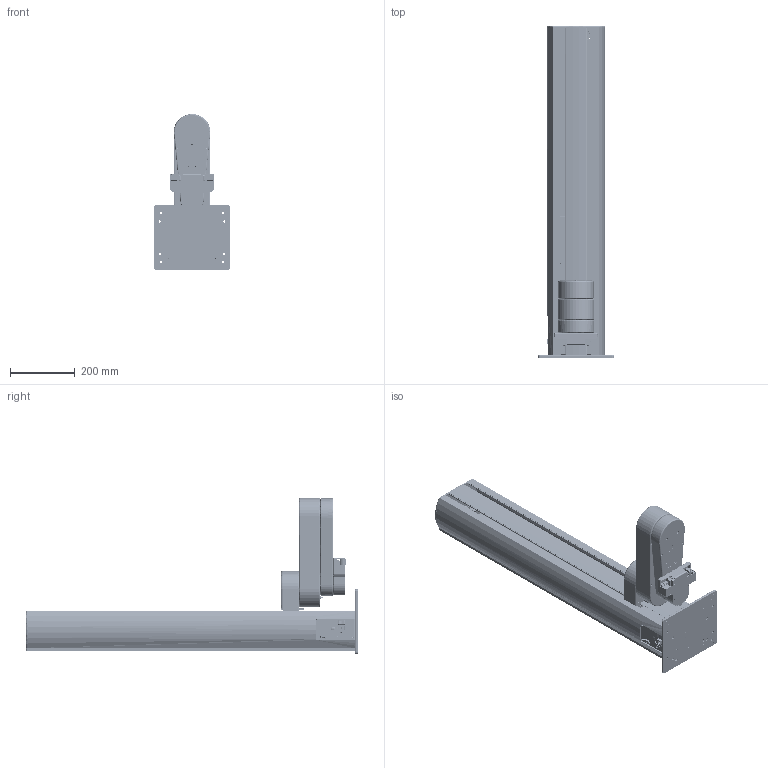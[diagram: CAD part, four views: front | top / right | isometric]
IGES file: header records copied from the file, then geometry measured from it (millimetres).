
Start section: SolidWorks IGES file using analytic representation for surfaces
Global section: file name: C:\Users\paul\Documents\CIMechatronic\OneDrive - Channel Islands Mechatronic\Precise Automation\PF400\ShellEXT ProdC\Assy, Main, ProdC, Precise 750 ShellEXT, PF400.IGS; native system: SolidWorks 2016; preprocessor: SolidWorks 2016; author: paul; date: 161012.092936; units: millimetre
Bounding box: 235.1 x 1028.95 x 484 mm (x, y, z)
Surface area: 2574188.4 mm2 (no closed solid volume)
Topology: 0 solids, 0 shells, 11250 faces, 148376 edges, 148169 vertices
Faces by surface type: revolution 5979, bspline 5271
